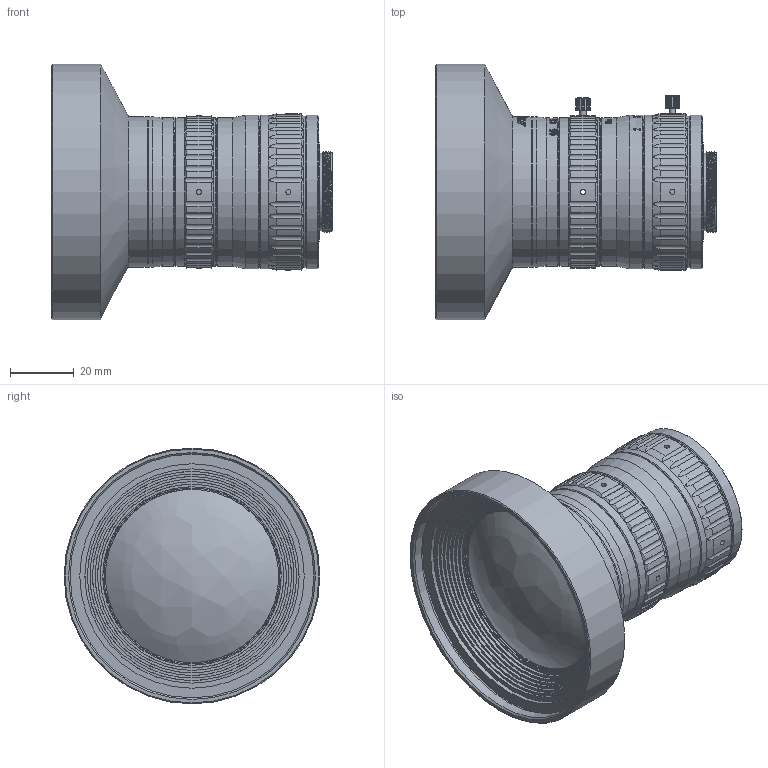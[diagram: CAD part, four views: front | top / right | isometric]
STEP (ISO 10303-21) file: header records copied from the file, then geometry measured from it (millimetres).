
FILE_DESCRIPTION (( 'STEP AP214' ), '1' );
FILE_NAME ('12-ÖÐÐÔ-OK.STEP', '2026-02-11T03:32:29', ( '' ), ( '' ), 'SwSTEP 2.0', 'SolidWorks 2023', '' );
FILE_SCHEMA (( 'AUTOMOTIVE_DESIGN' ));
Length unit declared in the file: millimetre
Products named in the file (8): FAL0011-0E-B; FAL0011-0E-107; FAL0011-0E-101-WX; FAL0011-0E-104; FAL0011-0E-105-WX; FAL0011-0E-106; P6662W02; 12-中性-OK
Assembly tree (8 placements, depth 2):
  12-中性-OK
    FAL0011-0E-101-WX
    FAL0011-0E-104
    FAL0011-0E-105-WX
    FAL0011-0E-106
    FAL0011-0E-107
    FAL0011-0E-B
    P6662W02  x2
Bounding box: 87.76 x 80 x 80 mm (x, y, z)
Volume: 155837.9 mm3; surface area: 39882.3 mm2
Topology: 8 solids, 8 shells, 1834 faces, 5196 edges, 3474 vertices
Faces by surface type: bspline 995, plane 500, cylinder 307, cone 32
Full cylindrical faces by diameter (mm): 1.1 x2, 1.6 x8, 1.8 x3, 2 x2, 2.7 x3, 17.7 x1, 22 x1, 23.2 x1, 24.3 x1, 38.4 x1, 39.2 x1, 40.3 x1, 40.4 x1, 43.8 x1, 44 x1, 44.8 x1, 46.5 x4, 46.96 x1, 47 x2, 47.4 x1, 48 x3, 54.2 x1, 55 x1, 55.8 x1, 57.4 x1, 59 x1, 60.6 x1, 62.2 x1, 63.8 x1, 65.4 x1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
Entity records: 92363 total; most frequent: CARTESIAN_POINT 53884, ORIENTED_EDGE 9826, EDGE_CURVE 4913, DIRECTION 4599, VERTEX_POINT 3328, B_SPLINE_CURVE_WITH_KNOTS 2366, EDGE_LOOP 1973, VECTOR 1899
